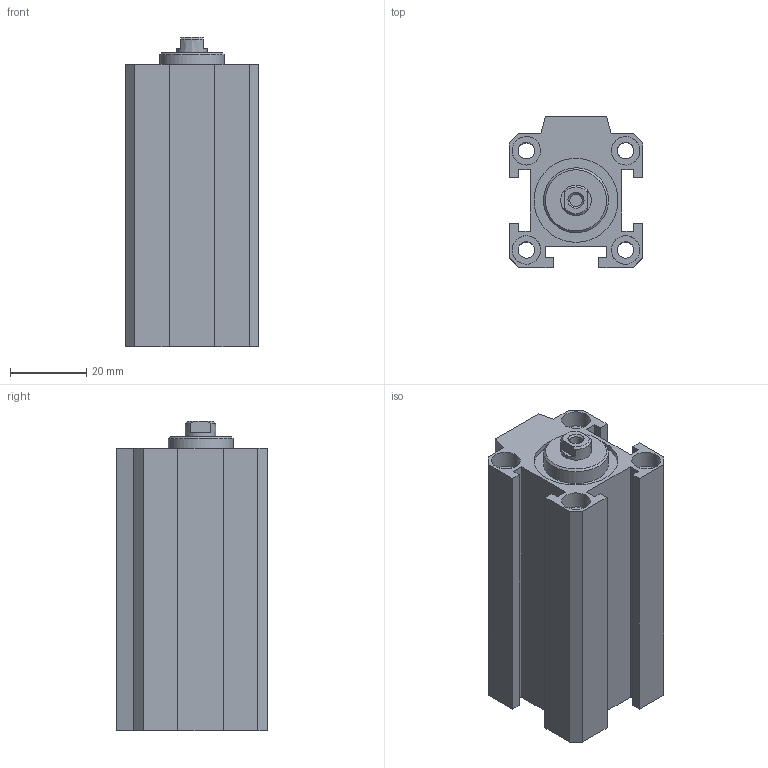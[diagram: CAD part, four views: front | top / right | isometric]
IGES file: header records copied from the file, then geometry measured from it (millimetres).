
Global section: file name: 1511_20_0040; native system: Autodesk Inventor 2014; preprocessor: unknown; author: A. Manieri; date: 20160824.110345; units: millimetre
Bounding box: 35 x 39.5 x 81 mm (x, y, z)
Volume: 60165.9 mm3; surface area: 29418.6 mm2
Topology: 2 solids, 2 shells, 91 faces, 233 edges, 164 vertices
Faces by surface type: bspline 91
